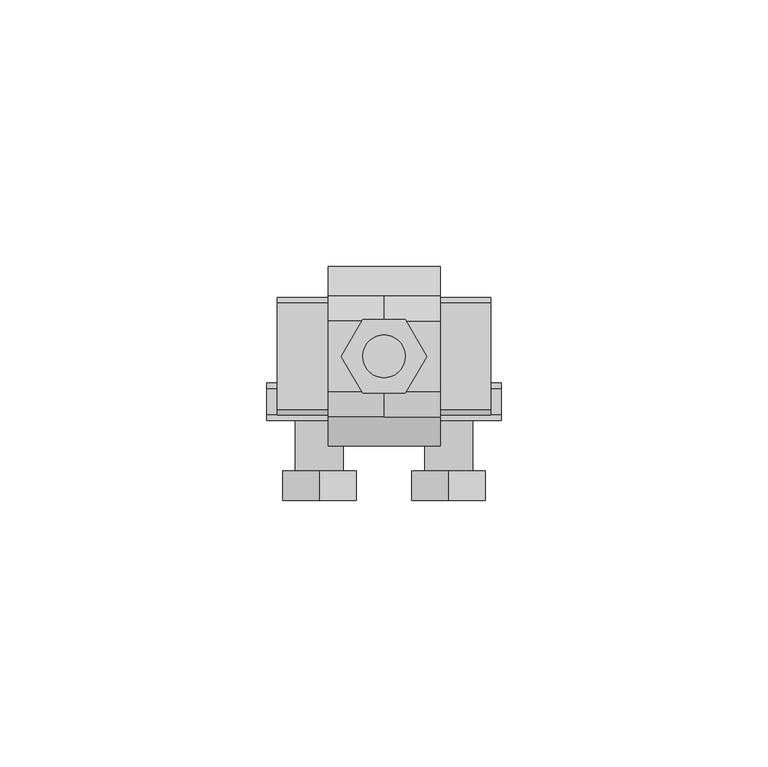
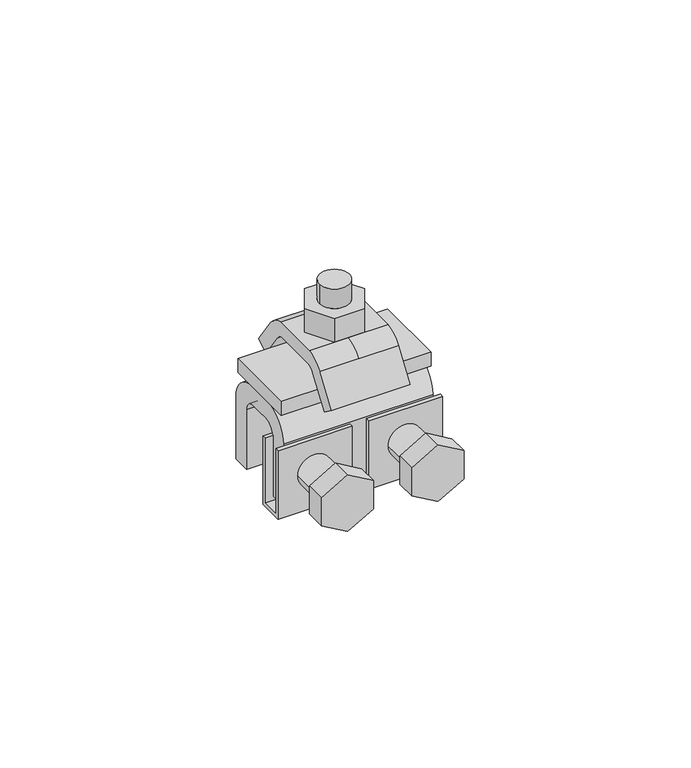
"""IFC4 building model written with IfcOpenShell, lengths in millimetres: proxy geometry, КНС_ЗажимФальцевый_DKC : ND2001CU_Медь."""

from ifc_helpers import new_model, si_unit, point, frame, frame_2d, origin, place, context, project, spatial, polyline, circle_curve, trimmed, segment, composite_curve, outline, extrude, source, transform, mapped, element, save
from ifc_brep_helpers import plane_surface, cylinder_surface, revolved_surface, advanced_brep


def security_devices_f6d8e784(model_context):
    return source(origin(), model_context, "Body", "SolidModel", [
        extrude(outline(polyline([(20.0, 10.0), (20.0, -10.0), (-20.0, -10.0), (-20.0, 10.0), (20.0, 10.0)])), frame((0.0, 0.0, 7.5), z_axis=(0.0, 0.0, 1.0), x_axis=(1.0, 0.0, 0.0)), (0.0, 0.0, 1.0), 4.0),
        advanced_brep(
        [(10.5, -13.5731314, 7.3929075), (10.5, -8.1410965, 15.1506573), (10.5, -6.2051161, 16.5), (10.5, 6.2051161, 16.5), (10.5, 8.1410965, 15.1506573), (10.5, 13.5731314, 7.3929075), (10.5, 16.8497396, 9.6872132), (10.5, 11.4177046, 17.4449631), (10.5, 6.6229437, 20.5), (10.5, -6.6229437, 20.5), (10.5, -11.4177046, 17.4449631), (10.5, -16.8497396, 9.6872132), (-10.5, -13.5731314, 7.3929075), (-10.5, -8.1410965, 15.1506573), (0.0, -8.1410965, 15.1506573), (0.0, -6.2051161, 16.5), (-10.5, -6.2051161, 16.5), (-10.5, 6.2051161, 16.5), (0.0, 6.2051161, 16.5), (0.0, 8.1410965, 15.1506573), (-10.5, 8.1410965, 15.1506573), (-10.5, 13.5731314, 7.3929075), (-10.5, 16.8497396, 9.6872132), (-10.5, 11.4177046, 17.4449631), (0.0, 11.4177046, 17.4449631), (0.0, 6.6229437, 20.5), (-10.5, 6.6229437, 20.5), (-10.5, -6.6229437, 20.5), (0.0, -6.6229437, 20.5), (0.0, -11.4177046, 17.4449631), (-10.5, -11.4177046, 17.4449631), (-10.5, -16.8497396, 9.6872132)],
        [
            (0, 1),
            (1, 2, circle_curve(frame((10.5, -5.3318916, 13.183631), z_axis=(-1.0, 0.0, 0.0), x_axis=(0.0, -1.0, 0.0)), 3.4294059)),
            (2, 3),
            (3, 4, circle_curve(frame((10.5, 5.3318916, 13.183631), z_axis=(-1.0, 0.0, 0.0), x_axis=(0.0, -1.0, 0.0)), 3.4294059)),
            (4, 5),
            (5, 6),
            (6, 7),
            (7, 8, circle_curve(frame((10.5, 5.3318916, 13.183631), z_axis=(1.0, 0.0, 0.0), x_axis=(0.0, -1.0, 0.0)), 7.4294059)),
            (8, 9),
            (9, 10, circle_curve(frame((10.5, -5.3318916, 13.183631), z_axis=(1.0, 0.0, 0.0), x_axis=(0.0, -1.0, 0.0)), 7.4294059)),
            (10, 11),
            (11, 0),
            (0, 12),
            (12, 13),
            (13, 14),
            (14, 1),
            (14, 15, circle_curve(frame((0.0, -5.3318916, 13.183631), z_axis=(-1.0, 0.0, 0.0), x_axis=(0.0, -1.0, 0.0)), 3.4294059)),
            (15, 2),
            (15, 16),
            (16, 17),
            (17, 18),
            (18, 3),
            (18, 19, circle_curve(frame((0.0, 5.3318916, 13.183631), z_axis=(-1.0, 0.0, 0.0), x_axis=(0.0, -1.0, 0.0)), 3.4294059)),
            (19, 4),
            (19, 20),
            (20, 21),
            (21, 5),
            (21, 22),
            (22, 6),
            (22, 23),
            (23, 24),
            (24, 7),
            (24, 25, circle_curve(frame((0.0, 5.3318916, 13.183631), z_axis=(1.0, 0.0, 0.0), x_axis=(0.0, -1.0, 0.0)), 7.4294059)),
            (25, 8),
            (25, 26),
            (26, 27),
            (27, 28),
            (28, 9),
            (28, 29, circle_curve(frame((0.0, -5.3318916, 13.183631), z_axis=(1.0, 0.0, 0.0), x_axis=(0.0, -1.0, 0.0)), 7.4294059)),
            (29, 10),
            (29, 30),
            (30, 31),
            (31, 11),
            (31, 12),
            (30, 27, circle_curve(frame((-10.5, -5.3318916, 13.183631), z_axis=(-1.0, 0.0, 0.0), x_axis=(0.0, -1.0, 0.0)), 7.4294059)),
            (26, 23, circle_curve(frame((-10.5, 5.3318916, 13.183631), z_axis=(-1.0, 0.0, 0.0), x_axis=(0.0, -1.0, 0.0)), 7.4294059)),
            (20, 17, circle_curve(frame((-10.5, 5.3318916, 13.183631), z_axis=(1.0, 0.0, 0.0), x_axis=(0.0, -1.0, 0.0)), 3.4294059)),
            (16, 13, circle_curve(frame((-10.5, -5.3318916, 13.183631), z_axis=(1.0, 0.0, 0.0), x_axis=(0.0, -1.0, 0.0)), 3.4294059)),
        ],
        [
            plane_surface(frame((10.5, 0.0, 14.0), z_axis=(1.0, 0.0, 0.0), x_axis=(0.0, 0.0, 1.0))),
            plane_surface(frame((10.5, -13.5731314, 7.3929075), z_axis=(0.0, 0.8191520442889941, -0.5735764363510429), x_axis=(-1.0, 0.0, 0.0))),
            revolved_surface(polyline([(0.0, -8.7612975, 13.183631), (10.5, -8.7612975, 13.183631)]), (10.5, -5.3318916, 13.183631), (-1.0, 0.0, 0.0)),
            plane_surface(frame((10.5, -6.2051161, 16.5), z_axis=(0.0, 0.0, -1.0), x_axis=(-1.0, 0.0, 0.0))),
            revolved_surface(polyline([(0.0, 1.9024856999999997, 13.183631), (10.5, 1.9024856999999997, 13.183631)]), (10.5, 5.3318916, 13.183631), (-1.0, 0.0, 0.0)),
            plane_surface(frame((10.5, 8.1410965, 15.1506573), z_axis=(0.0, -0.8191520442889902, -0.5735764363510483), x_axis=(-1.0, 0.0, 0.0))),
            plane_surface(frame((10.5, 13.5731314, 7.3929075), z_axis=(0.0, 0.573576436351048, -0.8191520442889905), x_axis=(-1.0, 0.0, 0.0))),
            plane_surface(frame((10.5, 16.8497396, 9.6872132), z_axis=(0.0, 0.8191520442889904, 0.5735764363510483), x_axis=(-1.0, 0.0, 0.0))),
            cylinder_surface(frame((10.5, 5.3318916, 13.183631), z_axis=(1.0, 0.0, 0.0), x_axis=(0.0, -1.0, 0.0)), 7.4294059),
            plane_surface(frame((10.5, 6.6229437, 20.5), z_axis=(0.0, 0.0, 1.0), x_axis=(-1.0, 0.0, 0.0))),
            cylinder_surface(frame((10.5, -5.3318916, 13.183631), z_axis=(1.0, 0.0, 0.0), x_axis=(0.0, -1.0, 0.0)), 7.4294059),
            plane_surface(frame((10.5, -11.4177046, 17.4449631), z_axis=(0.0, -0.8191520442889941, 0.5735764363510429), x_axis=(-1.0, 0.0, 0.0))),
            plane_surface(frame((10.5, -16.8497396, 9.6872132), z_axis=(0.0, -0.5735764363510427, -0.8191520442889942), x_axis=(-1.0, 0.0, 0.0))),
            plane_surface(frame((-10.5, 0.0, 14.0), z_axis=(-1.0, 0.0, 0.0), x_axis=(0.0, 0.0, 1.0))),
            revolved_surface(polyline([(-10.5, -8.7612975, 13.183631), (0.0, -8.7612975, 13.183631)]), (0.0, -5.3318916, 13.183631), (-1.0, 0.0, 0.0)),
            revolved_surface(polyline([(-10.5, 1.9024856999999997, 13.183631), (0.0, 1.9024856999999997, 13.183631)]), (0.0, 5.3318916, 13.183631), (-1.0, 0.0, 0.0)),
            cylinder_surface(frame((0.0, 5.3318916, 13.183631), z_axis=(1.0, 0.0, 0.0), x_axis=(0.0, -1.0, 0.0)), 7.4294059),
            cylinder_surface(frame((0.0, -5.3318916, 13.183631), z_axis=(1.0, 0.0, 0.0), x_axis=(0.0, -1.0, 0.0)), 7.4294059),
        ],
        [
            (0, [[1, 2, 3, 4, 5, 6, 7, 8, 9, 10, 11, 12]]),
            (1, [[-1, 13, 14, 15, 16]]),
            (2, [[-2, -16, 17, 18]]),
            (3, [[-3, -18, 19, 20, 21, 22]]),
            (4, [[-4, -22, 23, 24]]),
            (5, [[-5, -24, 25, 26, 27]]),
            (6, [[-6, -27, 28, 29]]),
            (7, [[-7, -29, 30, 31, 32]]),
            (8, [[-8, -32, 33, 34]]),
            (9, [[-9, -34, 35, 36, 37, 38]]),
            (10, [[-10, -38, 39, 40]]),
            (11, [[-11, -40, 41, 42, 43]]),
            (12, [[-13, -12, -43, 44]]),
            (13, [[-44, -42, 45, -36, 46, -30, -28, -26, 47, -20, 48, -14]]),
            (14, [[-17, -15, -48, -19]]),
            (15, [[-23, -21, -47, -25]]),
            (16, [[-33, -31, -46, -35]]),
            (17, [[-39, -37, -45, -41]]),
        ],
    ),
        advanced_brep(
        [(-7.5982045, -5.0, -9.7706486), (-16.5982045, -5.0, -9.7706486), (-7.5982045, -21.4751917, -9.7706486), (-16.5982045, -21.4751917, -9.7706486), (-5.1700013, -26.9926546, -5.7706486), (-12.0982045, -26.9926546, -1.7706486), (-19.0264077, -26.9926546, -5.7706486), (-19.0264077, -26.9926546, -13.7706486), (-12.0982045, -26.9926546, -17.7706486), (-5.1700013, -26.9926546, -13.7706486), (-5.1700013, -21.4751917, -5.7706486), (-5.1700013, -21.4751917, -13.7706486), (-12.0982045, -21.4751917, -17.7706486), (-19.0264077, -21.4751917, -13.7706486), (-19.0264077, -21.4751917, -5.7706486), (-12.0982045, -21.4751917, -1.7706486)],
        [
            (0, 1, circle_curve(frame((-12.0982045, -5.0, -9.7706486), z_axis=(0.0, 1.0, 0.0), x_axis=(-1.0, 0.0, 0.0)), 4.5)),
            (1, 0, circle_curve(frame((-12.0982045, -5.0, -9.7706486), z_axis=(0.0, 1.0, 0.0), x_axis=(-1.0, 0.0, 0.0)), 4.5)),
            (0, 2),
            (2, 3, circle_curve(frame((-12.0982045, -21.4751917, -9.7706486), z_axis=(0.0, 1.0, 0.0), x_axis=(-1.0, 0.0, 0.0)), 4.5)),
            (3, 1),
            (3, 2, circle_curve(frame((-12.0982045, -21.4751917, -9.7706486), z_axis=(0.0, 1.0, 0.0), x_axis=(-1.0, 0.0, 0.0)), 4.5)),
            (4, 5),
            (5, 6),
            (6, 7),
            (7, 8),
            (8, 9),
            (9, 4),
            (10, 11),
            (11, 12),
            (12, 13),
            (13, 14),
            (14, 15),
            (15, 10),
            (9, 11),
            (10, 4),
            (8, 12),
            (7, 13),
            (6, 14),
            (5, 15),
        ],
        [
            plane_surface(frame((-16.5982045, -5.0, -9.7706486), z_axis=(0.0, 1.0, 0.0), x_axis=(0.0, 0.0, 1.0))),
            cylinder_surface(frame((-12.0982045, -5.0, -9.7706486), z_axis=(0.0, -1.0, 0.0), x_axis=(-1.0, 0.0, 0.0)), 4.5),
            plane_surface(frame((-12.0982045, -26.9926546, -1.7706486), z_axis=(0.0, -1.0, 0.0), x_axis=(-0.8660254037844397, 0.0, 0.4999999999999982))),
            plane_surface(frame((-12.0982045, -21.4751917, -1.7706486), z_axis=(0.0, 1.0, 0.0), x_axis=(0.8660254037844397, 0.0, -0.4999999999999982))),
            plane_surface(frame((-5.1700013, -26.9926546, -13.7706486), z_axis=(1.0, 0.0, 0.0), x_axis=(0.0, 1.0, 0.0))),
            plane_surface(frame((-12.0982045, -26.9926546, -17.7706486), z_axis=(0.5000000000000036, 0.0, -0.8660254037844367), x_axis=(0.0, 1.0, 0.0))),
            plane_surface(frame((-19.0264077, -26.9926546, -13.7706486), z_axis=(-0.4999999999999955, 0.0, -0.8660254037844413), x_axis=(0.0, 1.0, 0.0))),
            plane_surface(frame((-19.0264077, -26.9926546, -5.7706486), z_axis=(-1.0, 0.0, 0.0), x_axis=(0.0, 1.0, 0.0))),
            plane_surface(frame((-12.0982045, -26.9926546, -1.7706486), z_axis=(-0.5000000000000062, 0.0, 0.866025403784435), x_axis=(0.0, 1.0, 0.0))),
            plane_surface(frame((-5.1700013, -26.9926546, -5.7706486), z_axis=(0.4999999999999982, 0.0, 0.8660254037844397), x_axis=(0.0, 1.0, 0.0))),
        ],
        [
            (0, [[1, 2]]),
            (1, [[-1, 3, 4, 5]]),
            (1, [[-2, -5, 6, -3]]),
            (2, [[7, 8, 9, 10, 11, 12]]),
            (3, [[13, 14, 15, 16, 17, 18], [-4, -6]]),
            (4, [[-12, 19, -13, 20]]),
            (5, [[-11, 21, -14, -19]]),
            (6, [[-10, 22, -15, -21]]),
            (7, [[-9, 23, -16, -22]]),
            (8, [[-8, 24, -17, -23]]),
            (9, [[-7, -20, -18, -24]]),
        ],
    ),
        extrude(outline(composite_curve([segment(trimmed(circle_curve(frame_2d((-9.7706486, 12.0982045)), 4.5), [point((-9.7706486, 7.5982045))], [point((-9.7706486, 16.5982045))], False, "CARTESIAN"), True, "CONTINUOUS"), segment(trimmed(circle_curve(frame_2d((-9.7706486, 12.0982045)), 4.5), [point((-9.7706486, 16.5982045))], [point((-9.7706486, 7.5982045))], False, "CARTESIAN"), True, "CONTINUOUS")], self_intersect=False)), frame((0.0, -21.4751917, 0.0), z_axis=(0.0, 1.0, 0.0), x_axis=(0.0, 0.0, 1.0)), (0.0, 0.0, 1.0), 16.4751917),
        extrude(outline(polyline([(-5.7706486, 5.1700013), (-13.7706486, 5.1700013), (-17.7706486, 12.0982045), (-13.7706486, 19.0264077), (-5.7706486, 19.0264077), (-1.7706486, 12.0982045), (-5.7706486, 5.1700013)])), frame((0.0, -26.9926546, 0.0), z_axis=(0.0, 1.0, 0.0), x_axis=(0.0, 0.0, 1.0)), (0.0, 0.0, 1.0), 5.5174629),
        advanced_brep(
        [(4.0, 0.0, 33.0), (-4.0, 0.0, 33.0), (4.0, 0.0, 7.5), (-4.0, 0.0, 7.5), (4.0, 0.0, 27.5), (-4.0, 0.0, 27.5), (-4.0, 0.0, 20.5453567), (4.0, 0.0, 20.5453567), (4.0, 6.9282032, 27.5), (-4.0, 6.9282032, 27.5), (-8.0, 0.0, 27.5), (-4.0, -6.9282032, 27.5), (4.0, -6.9282032, 27.5), (8.0, 0.0, 27.5), (4.0, 6.9282032, 20.5453567), (8.0, 0.0, 20.5453567), (4.0, -6.9282032, 20.5453567), (-4.0, -6.9282032, 20.5453567), (-8.0, 0.0, 20.5453567), (-4.0, 6.9282032, 20.5453567)],
        [
            (0, 1, circle_curve(frame((0.0, 0.0, 33.0), z_axis=(0.0, 0.0, 1.0), x_axis=(-1.0, 0.0, 0.0)), 4.0)),
            (1, 0, circle_curve(frame((0.0, 0.0, 33.0), z_axis=(0.0, 0.0, 1.0), x_axis=(-1.0, 0.0, 0.0)), 4.0)),
            (2, 3, circle_curve(frame((0.0, 0.0, 7.5), z_axis=(0.0, 0.0, -1.0), x_axis=(-1.0, 0.0, 0.0)), 4.0)),
            (3, 2, circle_curve(frame((0.0, 0.0, 7.5), z_axis=(0.0, 0.0, -1.0), x_axis=(-1.0, 0.0, 0.0)), 4.0)),
            (0, 4),
            (4, 5, circle_curve(frame((0.0, 0.0, 27.5), z_axis=(0.0, 0.0, 1.0), x_axis=(-1.0, 0.0, 0.0)), 4.0)),
            (5, 1),
            (3, 6),
            (6, 7, circle_curve(frame((0.0, 0.0, 20.5453567), z_axis=(0.0, 0.0, -1.0), x_axis=(-1.0, 0.0, 0.0)), 4.0)),
            (7, 2),
            (5, 4, circle_curve(frame((0.0, 0.0, 27.5), z_axis=(0.0, 0.0, 1.0), x_axis=(-1.0, 0.0, 0.0)), 4.0)),
            (7, 6, circle_curve(frame((0.0, 0.0, 20.5453567), z_axis=(0.0, 0.0, -1.0), x_axis=(-1.0, 0.0, 0.0)), 4.0)),
            (8, 9),
            (9, 10),
            (10, 11),
            (11, 12),
            (12, 13),
            (13, 8),
            (14, 15),
            (15, 16),
            (16, 17),
            (17, 18),
            (18, 19),
            (19, 14),
            (8, 14),
            (19, 9),
            (18, 10),
            (17, 11),
            (16, 12),
            (15, 13),
        ],
        [
            plane_surface(frame((-4.0, 0.0, 33.0), z_axis=(0.0, 0.0, 1.0), x_axis=(0.0, -1.0, 0.0))),
            plane_surface(frame((-4.0, 0.0, 7.5), z_axis=(0.0, 0.0, -1.0), x_axis=(0.0, 1.0, 0.0))),
            cylinder_surface(frame((0.0, 0.0, 7.5), z_axis=(0.0, 0.0, 1.0), x_axis=(-1.0, 0.0, 0.0)), 4.0),
            plane_surface(frame((4.0, 6.9282032, 27.5), z_axis=(0.0, 0.0, 1.0), x_axis=(-1.0, 0.0, 0.0))),
            plane_surface(frame((4.0, 6.9282032, 20.5453567), z_axis=(0.0, 0.0, -1.0), x_axis=(1.0, 0.0, 0.0))),
            plane_surface(frame((4.0, 6.9282032, 27.5), z_axis=(0.0, 1.0, 0.0), x_axis=(0.0, 0.0, -1.0))),
            plane_surface(frame((-4.0, 6.9282032, 27.5), z_axis=(-0.8660254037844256, 0.5000000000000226, 0.0), x_axis=(0.0, 0.0, -1.0))),
            plane_surface(frame((-8.0, 0.0, 27.5), z_axis=(-0.8660254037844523, -0.4999999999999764, 0.0), x_axis=(0.0, 0.0, -1.0))),
            plane_surface(frame((-4.0, -6.9282032, 27.5), z_axis=(0.0, -1.0, 0.0), x_axis=(0.0, 0.0, -1.0))),
            plane_surface(frame((4.0, -6.9282032, 27.5), z_axis=(0.866025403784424, -0.5000000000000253, 0.0), x_axis=(0.0, 0.0, -1.0))),
            plane_surface(frame((8.0, 0.0, 27.5), z_axis=(0.8660254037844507, 0.4999999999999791, 0.0), x_axis=(0.0, 0.0, -1.0))),
        ],
        [
            (0, [[1, 2]]),
            (1, [[3, 4]]),
            (2, [[-1, 5, 6, 7]]),
            (2, [[-4, 8, 9, 10]]),
            (2, [[-2, -7, 11, -5]]),
            (2, [[-3, -10, 12, -8]]),
            (3, [[13, 14, 15, 16, 17, 18], [-6, -11]]),
            (4, [[19, 20, 21, 22, 23, 24], [-9, -12]]),
            (5, [[-13, 25, -24, 26]]),
            (6, [[-14, -26, -23, 27]]),
            (7, [[-15, -27, -22, 28]]),
            (8, [[-16, -28, -21, 29]]),
            (9, [[-17, -29, -20, 30]]),
            (10, [[-18, -30, -19, -25]]),
        ],
    ),
        extrude(outline(polyline([(-5.0, -0.5412972), (-5.0, -20.0), (-12.0, -20.0), (-12.0, -0.5412972), (-11.0, -0.5412972), (-11.0, -19.0), (-6.0, -19.0), (-6.0, -0.5412972), (-5.0, -0.5412972)])), frame((-22.0, 0.0, 0.0), z_axis=(1.0, 0.0, 0.0), x_axis=(0.0, 1.0, 0.0)), (0.0, 0.0, 1.0), 19.803591),
        extrude(outline(polyline([(-5.0, -0.5412972), (-5.0, -20.0), (-12.0, -20.0), (-12.0, -0.5412972), (-11.0, -0.5412972), (-11.0, -19.0), (-6.0, -19.0), (-6.0, -0.5412972), (-5.0, -0.5412972)])), frame((2.196409, 0.0, 0.0), z_axis=(1.0, 0.0, 0.0), x_axis=(0.0, 1.0, 0.0)), (0.0, 0.0, 1.0), 19.803591),
        extrude(outline(composite_curve([segment(polyline([(11.0, -17.5), (6.0, -17.5), (6.0, -0.5412972)]), True, "CONTINUOUS"), segment(trimmed(circle_curve(frame_2d((2.9587028, -0.5412972)), 3.0412972), [point((6.0, -0.5412972))], [point((2.9587028, 2.5))], True, "CARTESIAN"), True, "CONTINUOUS"), segment(polyline([(2.9587028, 2.5), (0.0, 2.5), (-2.9587028, 2.5)]), True, "CONTINUOUS"), segment(trimmed(circle_curve(frame_2d((-2.9587028, -0.5412972)), 3.0412972), [point((-2.9587028, 2.5))], [point((-6.0, -0.5412972))], True, "CARTESIAN"), True, "CONTINUOUS"), segment(polyline([(-6.0, -0.5412972), (-6.0, -17.5), (-11.0, -17.5), (-11.0, 0.0)]), True, "CONTINUOUS"), segment(trimmed(circle_curve(frame_2d((-3.5, 0.0)), 7.5), [point((-11.0, 0.0))], [point((-3.5, 7.5))], False, "CARTESIAN"), True, "CONTINUOUS"), segment(polyline([(-3.5, 7.5), (0.0, 7.5), (3.5, 7.5)]), True, "CONTINUOUS"), segment(trimmed(circle_curve(frame_2d((3.5, 0.0)), 7.5), [point((3.5, 7.5))], [point((11.0, 0.0))], False, "CARTESIAN"), True, "CONTINUOUS"), segment(polyline([(11.0, 0.0), (11.0, -17.5)]), True, "CONTINUOUS")], self_intersect=False)), frame((-20.0, 0.0, 0.0), z_axis=(1.0, 0.0, 0.0), x_axis=(0.0, 1.0, 0.0)), (0.0, 0.0, 1.0), 40.0),
    ])


if __name__ == "__main__":
    model = new_model("IFC4")
    model_context = context("Model", 3, world=origin())
    ifc_project = project(units=[si_unit("LENGTHUNIT", "METRE", prefix="MILLI")], contexts=[model_context])
    site = spatial("IfcSite", under=ifc_project)
    building = spatial("IfcBuilding", under=site)
    placement = place(None, origin())
    security_devices_shape = security_devices_f6d8e784(model_context)
    element("IfcBuildingElementProxy", 1, Name="КНС_ЗажимФальцевый_DKC : ND2001CU_Медь", ObjectType="КНС_ЗажимФальцевый_DKC : ND2001CU_Медь", at=placement, inside=building, context=model_context, shape_type="MappedRepresentation", body=[
        mapped(security_devices_shape, transform((0.0, 0.0, 0.0), x_axis=(1.0, 0.0, 0.0), y_axis=(0.0, 1.0, 0.0), z_axis=(0.0, 0.0, 1.0))),
    ])
    save(model, "model.ifc")
